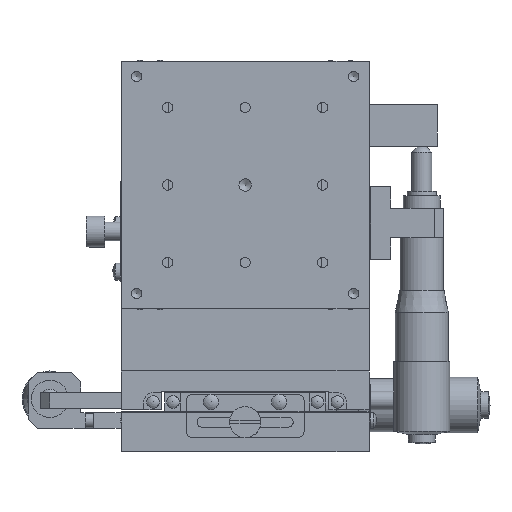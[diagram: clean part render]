
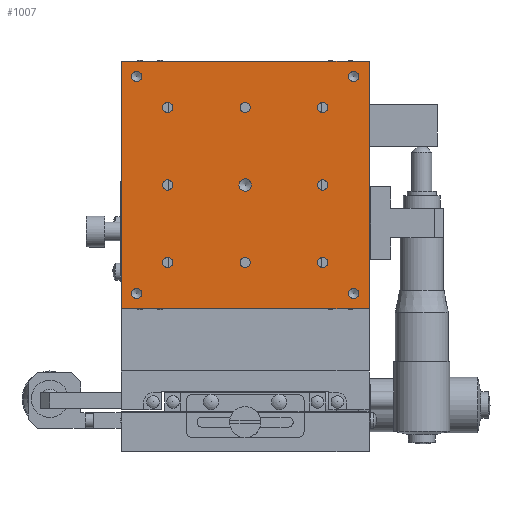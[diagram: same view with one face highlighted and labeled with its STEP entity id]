
A CAD part, front view. The second image highlights one B-rep face of the part: STEP entity #1007.
In plain terms, the highlighted planar face has unit normal (0, -1, 0).
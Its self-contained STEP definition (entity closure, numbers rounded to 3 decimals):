
#1007 = ADVANCED_FACE( '', ( #2511, #2512, #2513, #2514, #2515, #2516, #2517, #2518, #2519, #2520, #2521, #2522, #2523, #2524 ), #2525, .T. );
#2511 = FACE_BOUND( '', #4193, .T. );
#2512 = FACE_BOUND( '', #4194, .T. );
#2513 = FACE_BOUND( '', #4195, .T. );
#2514 = FACE_BOUND( '', #4196, .T. );
#2515 = FACE_BOUND( '', #4197, .T. );
#2516 = FACE_BOUND( '', #4198, .T. );
#2517 = FACE_BOUND( '', #4199, .T. );
#2518 = FACE_BOUND( '', #4200, .T. );
#2519 = FACE_BOUND( '', #4201, .T. );
#2520 = FACE_BOUND( '', #4202, .T. );
#2521 = FACE_BOUND( '', #4203, .T. );
#2522 = FACE_BOUND( '', #4204, .T. );
#2523 = FACE_BOUND( '', #4205, .T. );
#2524 = FACE_OUTER_BOUND( '', #4206, .T. );
#2525 = PLANE( '', #4207 );
#4193 = EDGE_LOOP( '', ( #8289 ) );
#4194 = EDGE_LOOP( '', ( #8290 ) );
#4195 = EDGE_LOOP( '', ( #8291 ) );
#4196 = EDGE_LOOP( '', ( #8292 ) );
#4197 = EDGE_LOOP( '', ( #8293 ) );
#4198 = EDGE_LOOP( '', ( #8294 ) );
#4199 = EDGE_LOOP( '', ( #8295 ) );
#4200 = EDGE_LOOP( '', ( #8296 ) );
#4201 = EDGE_LOOP( '', ( #8297 ) );
#4202 = EDGE_LOOP( '', ( #8298 ) );
#4203 = EDGE_LOOP( '', ( #8299 ) );
#4204 = EDGE_LOOP( '', ( #8300 ) );
#4205 = EDGE_LOOP( '', ( #8301 ) );
#4206 = EDGE_LOOP( '', ( #8302, #8303, #8304, #8305 ) );
#4207 = AXIS2_PLACEMENT_3D( '', #8306, #8307, #8308 );
#8289 = ORIENTED_EDGE( '', *, *, #10012, .T. );
#8290 = ORIENTED_EDGE( '', *, *, #10013, .T. );
#8291 = ORIENTED_EDGE( '', *, *, #10014, .T. );
#8292 = ORIENTED_EDGE( '', *, *, #10015, .T. );
#8293 = ORIENTED_EDGE( '', *, *, #10016, .T. );
#8294 = ORIENTED_EDGE( '', *, *, #10017, .T. );
#8295 = ORIENTED_EDGE( '', *, *, #10018, .T. );
#8296 = ORIENTED_EDGE( '', *, *, #10019, .T. );
#8297 = ORIENTED_EDGE( '', *, *, #10020, .T. );
#8298 = ORIENTED_EDGE( '', *, *, #10021, .T. );
#8299 = ORIENTED_EDGE( '', *, *, #10022, .T. );
#8300 = ORIENTED_EDGE( '', *, *, #10023, .T. );
#8301 = ORIENTED_EDGE( '', *, *, #10024, .T. );
#8302 = ORIENTED_EDGE( '', *, *, #10025, .F. );
#8303 = ORIENTED_EDGE( '', *, *, #10026, .F. );
#8304 = ORIENTED_EDGE( '', *, *, #10027, .F. );
#8305 = ORIENTED_EDGE( '', *, *, #10028, .F. );
#8306 = CARTESIAN_POINT( '', ( 0., -60., 86. ) );
#8307 = DIRECTION( '', ( 0., -1., 0. ) );
#8308 = DIRECTION( '', ( 1., 0., 0. ) );
#10012 = EDGE_CURVE( '', #12084, #12084, #12085, .T. );
#10013 = EDGE_CURVE( '', #12086, #12086, #12087, .T. );
#10014 = EDGE_CURVE( '', #12088, #12088, #12089, .T. );
#10015 = EDGE_CURVE( '', #12090, #12090, #12091, .T. );
#10016 = EDGE_CURVE( '', #12092, #12092, #12093, .T. );
#10017 = EDGE_CURVE( '', #12094, #12094, #12095, .T. );
#10018 = EDGE_CURVE( '', #12096, #12096, #12097, .T. );
#10019 = EDGE_CURVE( '', #12098, #12098, #12099, .T. );
#10020 = EDGE_CURVE( '', #12100, #12100, #12101, .T. );
#10021 = EDGE_CURVE( '', #12102, #12102, #12103, .T. );
#10022 = EDGE_CURVE( '', #12104, #12104, #12105, .T. );
#10023 = EDGE_CURVE( '', #12106, #12106, #12107, .T. );
#10024 = EDGE_CURVE( '', #12108, #12108, #12109, .T. );
#10025 = EDGE_CURVE( '', #12110, #12111, #12112, .T. );
#10026 = EDGE_CURVE( '', #12113, #12110, #12114, .T. );
#10027 = EDGE_CURVE( '', #12115, #12113, #12116, .T. );
#10028 = EDGE_CURVE( '', #12111, #12115, #12117, .T. );
#12084 = VERTEX_POINT( '', #15242 );
#12085 = CIRCLE( '', #15243, 2. );
#12086 = VERTEX_POINT( '', #15244 );
#12087 = CIRCLE( '', #15245, 1.65 );
#12088 = VERTEX_POINT( '', #15246 );
#12089 = CIRCLE( '', #15247, 1.65 );
#12090 = VERTEX_POINT( '', #15248 );
#12091 = CIRCLE( '', #15249, 1.65 );
#12092 = VERTEX_POINT( '', #15250 );
#12093 = CIRCLE( '', #15251, 1.65 );
#12094 = VERTEX_POINT( '', #15252 );
#12095 = CIRCLE( '', #15253, 1.65 );
#12096 = VERTEX_POINT( '', #15254 );
#12097 = CIRCLE( '', #15255, 1.65 );
#12098 = VERTEX_POINT( '', #15256 );
#12099 = CIRCLE( '', #15257, 1.65 );
#12100 = VERTEX_POINT( '', #15258 );
#12101 = CIRCLE( '', #15259, 1.65 );
#12102 = VERTEX_POINT( '', #15260 );
#12103 = CIRCLE( '', #15261, 1.65 );
#12104 = VERTEX_POINT( '', #15262 );
#12105 = CIRCLE( '', #15263, 1.65 );
#12106 = VERTEX_POINT( '', #15264 );
#12107 = CIRCLE( '', #15265, 1.65 );
#12108 = VERTEX_POINT( '', #15266 );
#12109 = CIRCLE( '', #15267, 1.65 );
#12110 = VERTEX_POINT( '', #15268 );
#12111 = VERTEX_POINT( '', #15269 );
#12112 = LINE( '', #15270, #15271 );
#12113 = VERTEX_POINT( '', #15272 );
#12114 = LINE( '', #15273, #15274 );
#12115 = VERTEX_POINT( '', #15275 );
#12116 = LINE( '', #15276, #15277 );
#12117 = LINE( '', #15278, #15279 );
#15242 = CARTESIAN_POINT( '', ( 2., -60., 86. ) );
#15243 = AXIS2_PLACEMENT_3D( '', #17499, #17500, #17501 );
#15244 = CARTESIAN_POINT( '', ( 36.65, -60., 121. ) );
#15245 = AXIS2_PLACEMENT_3D( '', #17502, #17503, #17504 );
#15246 = CARTESIAN_POINT( '', ( -33.35, -60., 121. ) );
#15247 = AXIS2_PLACEMENT_3D( '', #17505, #17506, #17507 );
#15248 = CARTESIAN_POINT( '', ( -33.35, -60., 51. ) );
#15249 = AXIS2_PLACEMENT_3D( '', #17508, #17509, #17510 );
#15250 = CARTESIAN_POINT( '', ( 36.65, -60., 51. ) );
#15251 = AXIS2_PLACEMENT_3D( '', #17511, #17512, #17513 );
#15252 = CARTESIAN_POINT( '', ( 26.65, -60., 86. ) );
#15253 = AXIS2_PLACEMENT_3D( '', #17514, #17515, #17516 );
#15254 = CARTESIAN_POINT( '', ( 26.65, -60., 111. ) );
#15255 = AXIS2_PLACEMENT_3D( '', #17517, #17518, #17519 );
#15256 = CARTESIAN_POINT( '', ( 1.65, -60., 111. ) );
#15257 = AXIS2_PLACEMENT_3D( '', #17520, #17521, #17522 );
#15258 = CARTESIAN_POINT( '', ( -23.35, -60., 111. ) );
#15259 = AXIS2_PLACEMENT_3D( '', #17523, #17524, #17525 );
#15260 = CARTESIAN_POINT( '', ( -23.35, -60., 86. ) );
#15261 = AXIS2_PLACEMENT_3D( '', #17526, #17527, #17528 );
#15262 = CARTESIAN_POINT( '', ( -23.35, -60., 61. ) );
#15263 = AXIS2_PLACEMENT_3D( '', #17529, #17530, #17531 );
#15264 = CARTESIAN_POINT( '', ( 1.65, -60., 61. ) );
#15265 = AXIS2_PLACEMENT_3D( '', #17532, #17533, #17534 );
#15266 = CARTESIAN_POINT( '', ( 26.65, -60., 61. ) );
#15267 = AXIS2_PLACEMENT_3D( '', #17535, #17536, #17537 );
#15268 = CARTESIAN_POINT( '', ( 40., -60., 46. ) );
#15269 = CARTESIAN_POINT( '', ( -40., -60., 46. ) );
#15270 = CARTESIAN_POINT( '', ( 0., -60., 46. ) );
#15271 = VECTOR( '', #17538, 1000. );
#15272 = CARTESIAN_POINT( '', ( 40., -60., 126. ) );
#15273 = CARTESIAN_POINT( '', ( 40., -60., 86. ) );
#15274 = VECTOR( '', #17539, 1000. );
#15275 = CARTESIAN_POINT( '', ( -40., -60., 126. ) );
#15276 = CARTESIAN_POINT( '', ( 0., -60., 126. ) );
#15277 = VECTOR( '', #17540, 1000. );
#15278 = CARTESIAN_POINT( '', ( -40., -60., 86. ) );
#15279 = VECTOR( '', #17541, 1000. );
#17499 = CARTESIAN_POINT( '', ( 0., -60., 86. ) );
#17500 = DIRECTION( '', ( 0., 1., 0. ) );
#17501 = DIRECTION( '', ( 1., 0., 0. ) );
#17502 = CARTESIAN_POINT( '', ( 35., -60., 121. ) );
#17503 = DIRECTION( '', ( 0., 1., 0. ) );
#17504 = DIRECTION( '', ( 1., 0., 0. ) );
#17505 = CARTESIAN_POINT( '', ( -35., -60., 121. ) );
#17506 = DIRECTION( '', ( 0., 1., 0. ) );
#17507 = DIRECTION( '', ( 1., 0., 0. ) );
#17508 = CARTESIAN_POINT( '', ( -35., -60., 51. ) );
#17509 = DIRECTION( '', ( 0., 1., 0. ) );
#17510 = DIRECTION( '', ( 1., 0., 0. ) );
#17511 = CARTESIAN_POINT( '', ( 35., -60., 51. ) );
#17512 = DIRECTION( '', ( 0., 1., 0. ) );
#17513 = DIRECTION( '', ( 1., 0., 0. ) );
#17514 = CARTESIAN_POINT( '', ( 25., -60., 86. ) );
#17515 = DIRECTION( '', ( 0., 1., 0. ) );
#17516 = DIRECTION( '', ( 1., 0., 0. ) );
#17517 = CARTESIAN_POINT( '', ( 25., -60., 111. ) );
#17518 = DIRECTION( '', ( 0., 1., 0. ) );
#17519 = DIRECTION( '', ( 1., 0., 0. ) );
#17520 = CARTESIAN_POINT( '', ( 0., -60., 111. ) );
#17521 = DIRECTION( '', ( 0., 1., 0. ) );
#17522 = DIRECTION( '', ( 1., 0., 0. ) );
#17523 = CARTESIAN_POINT( '', ( -25., -60., 111. ) );
#17524 = DIRECTION( '', ( 0., 1., 0. ) );
#17525 = DIRECTION( '', ( 1., 0., 0. ) );
#17526 = CARTESIAN_POINT( '', ( -25., -60., 86. ) );
#17527 = DIRECTION( '', ( 0., 1., 0. ) );
#17528 = DIRECTION( '', ( 1., 0., 0. ) );
#17529 = CARTESIAN_POINT( '', ( -25., -60., 61. ) );
#17530 = DIRECTION( '', ( 0., 1., 0. ) );
#17531 = DIRECTION( '', ( 1., 0., 0. ) );
#17532 = CARTESIAN_POINT( '', ( 0., -60., 61. ) );
#17533 = DIRECTION( '', ( 0., 1., 0. ) );
#17534 = DIRECTION( '', ( 1., 0., 0. ) );
#17535 = CARTESIAN_POINT( '', ( 25., -60., 61. ) );
#17536 = DIRECTION( '', ( 0., 1., 0. ) );
#17537 = DIRECTION( '', ( 1., 0., 0. ) );
#17538 = DIRECTION( '', ( -1., 0., 0. ) );
#17539 = DIRECTION( '', ( 0., 0., -1. ) );
#17540 = DIRECTION( '', ( 1., 0., 0. ) );
#17541 = DIRECTION( '', ( 0., 0., 1. ) );
